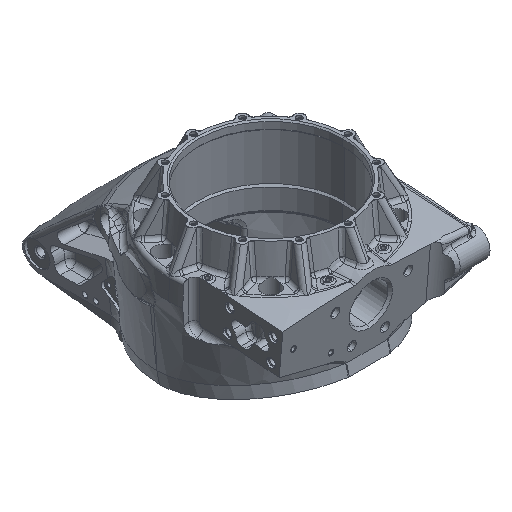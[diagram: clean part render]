
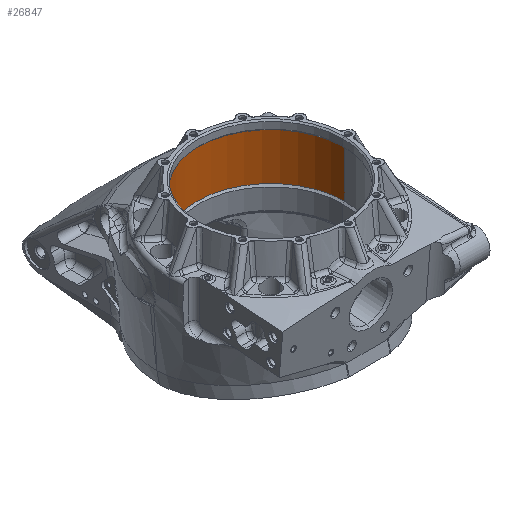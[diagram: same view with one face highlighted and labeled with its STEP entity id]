
A CAD part, isometric view. The second image highlights one B-rep face of the part: STEP entity #26847.
In plain terms, the highlighted cylindrical face has radius 66.75 mm (diameter 133.5 mm), a partial arc.
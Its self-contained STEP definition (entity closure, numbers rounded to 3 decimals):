
#1478 = DIRECTION ( 'NONE',  ( 0., 0., 1. ) ) ;
#2302 = AXIS2_PLACEMENT_3D ( 'NONE', #45189, #3229, #32014 ) ;
#2691 = AXIS2_PLACEMENT_3D ( 'NONE', #14865, #31320, #52603 ) ;
#3229 = DIRECTION ( 'NONE',  ( 0., 0., 1. ) ) ;
#3260 = CARTESIAN_POINT ( 'NONE',  ( -66.75, 0., -8.75 ) ) ;
#4283 = CARTESIAN_POINT ( 'NONE',  ( -66.75, 0., 0. ) ) ;
#6192 = VERTEX_POINT ( 'NONE', #48576 ) ;
#7066 = DIRECTION ( 'NONE',  ( 0., 0., 1. ) ) ;
#9557 = CARTESIAN_POINT ( 'NONE',  ( -66.75, 0., -51. ) ) ;
#10162 = ORIENTED_EDGE ( 'NONE', *, *, #44027, .T. ) ;
#12584 = AXIS2_PLACEMENT_3D ( 'NONE', #29873, #12607, #25515 ) ;
#12607 = DIRECTION ( 'NONE',  ( 0., 0., 1. ) ) ;
#14098 = EDGE_CURVE ( 'NONE', #38965, #28604, #44803, .T. ) ;
#14865 = CARTESIAN_POINT ( 'NONE',  ( 0., 0., -8.75 ) ) ;
#15554 = FACE_OUTER_BOUND ( 'NONE', #25480, .T. ) ;
#16475 = LINE ( 'NONE', #22934, #33877 ) ;
#21178 = CIRCLE ( 'NONE', #12584, 66.75 ) ;
#21186 = LINE ( 'NONE', #4283, #45853 ) ;
#22437 = ORIENTED_EDGE ( 'NONE', *, *, #14098, .T. ) ;
#22934 = CARTESIAN_POINT ( 'NONE',  ( 66.75, 0., 0. ) ) ;
#23737 = ORIENTED_EDGE ( 'NONE', *, *, #27906, .F. ) ;
#25480 = EDGE_LOOP ( 'NONE', ( #31286, #23737, #10162, #22437 ) ) ;
#25515 = DIRECTION ( 'NONE',  ( 1., 0., 0. ) ) ;
#26847 = ADVANCED_FACE ( 'NONE', ( #15554 ), #52771, .F. ) ;
#27906 = EDGE_CURVE ( 'NONE', #6192, #35544, #21178, .T. ) ;
#28604 = VERTEX_POINT ( 'NONE', #3260 ) ;
#29873 = CARTESIAN_POINT ( 'NONE',  ( 0., 0., -51. ) ) ;
#31286 = ORIENTED_EDGE ( 'NONE', *, *, #48365, .F. ) ;
#31320 = DIRECTION ( 'NONE',  ( 0., 0., 1. ) ) ;
#32014 = DIRECTION ( 'NONE',  ( 1., 0., 0. ) ) ;
#33877 = VECTOR ( 'NONE', #1478, 1000. ) ;
#35544 = VERTEX_POINT ( 'NONE', #9557 ) ;
#38965 = VERTEX_POINT ( 'NONE', #47548 ) ;
#44027 = EDGE_CURVE ( 'NONE', #6192, #38965, #16475, .T. ) ;
#44803 = CIRCLE ( 'NONE', #2691, 66.75 ) ;
#45189 = CARTESIAN_POINT ( 'NONE',  ( 0., 0., 0. ) ) ;
#45853 = VECTOR ( 'NONE', #7066, 1000. ) ;
#47548 = CARTESIAN_POINT ( 'NONE',  ( 66.75, 0., -8.75 ) ) ;
#48365 = EDGE_CURVE ( 'NONE', #35544, #28604, #21186, .T. ) ;
#48576 = CARTESIAN_POINT ( 'NONE',  ( 66.75, 0., -51. ) ) ;
#52603 = DIRECTION ( 'NONE',  ( 1., 0., 0. ) ) ;
#52771 = CYLINDRICAL_SURFACE ( 'NONE', #2302, 66.75 ) ;
